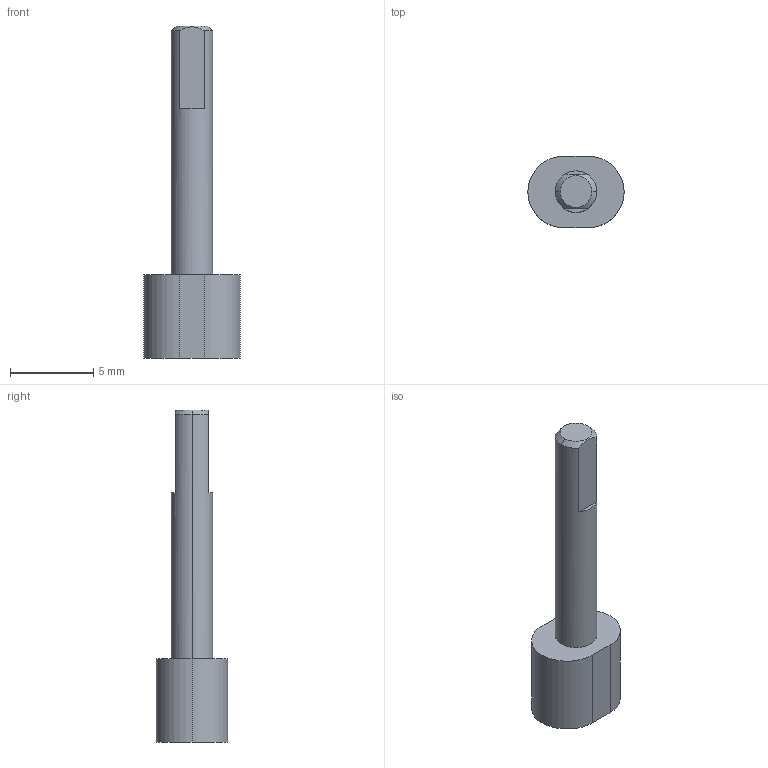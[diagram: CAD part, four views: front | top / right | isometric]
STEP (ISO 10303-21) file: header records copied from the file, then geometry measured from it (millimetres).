
FILE_DESCRIPTION (( 'STEP AP214' ), '1' );
FILE_NAME ('âàë-êóëà÷îê 2.STEP', '2024-12-19T13:22:39', ( '' ), ( '' ), 'SwSTEP 2.0', 'SolidWorks 2021', '' );
FILE_SCHEMA (( 'AUTOMOTIVE_DESIGN' ));
Length unit declared in the file: millimetre
Products named in the file (1): âàë-êóëà÷îê 2
Bounding box: 5.8 x 4.3 x 20 mm (x, y, z)
Volume: 175.7 mm3; surface area: 240.1 mm2
Topology: 1 solids, 1 shells, 16 faces, 37 edges, 24 vertices
Faces by surface type: plane 9, cylinder 5, cone 2
Entity records: 509 total; most frequent: CARTESIAN_POINT 96, DIRECTION 85, ORIENTED_EDGE 74, EDGE_CURVE 37, AXIS2_PLACEMENT_3D 33, VERTEX_POINT 24, LINE 19, VECTOR 19
